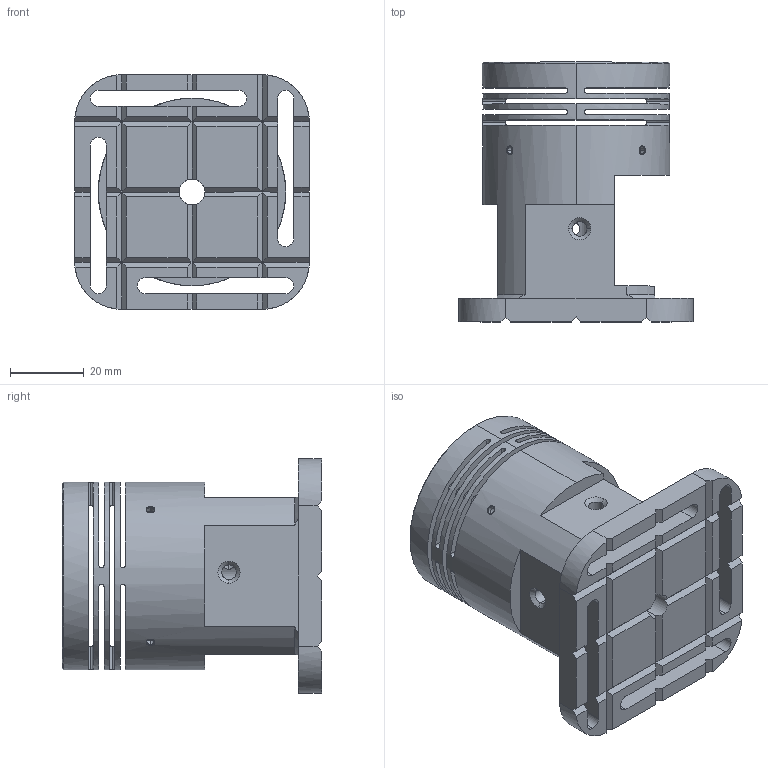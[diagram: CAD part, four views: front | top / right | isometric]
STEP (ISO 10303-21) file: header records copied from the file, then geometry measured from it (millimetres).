
FILE_DESCRIPTION (( 'STEP AP203' ), '1' );
FILE_NAME ('D2300001-v2 High-Reliability Ultra-Fast Mechanical Shutter (HRUF) Base.STEP', '2024-02-23T23:54:28', ( '' ), ( '' ), 'SwSTEP 2.0', 'SolidWorks 2023', '' );
FILE_SCHEMA (( 'CONFIG_CONTROL_DESIGN' ));
Length unit declared in the file: inch
Products named in the file (1): D2300001-v2 High-Reliability Ultra-Fast Mechanical Shutter (HRUF) Base
Bounding box: 63.5 x 70.32 x 63.5 mm (x, y, z)
Volume: 87110.9 mm3; surface area: 32490.1 mm2
Topology: 1 solids, 1 shells, 305 faces, 858 edges, 533 vertices
Faces by surface type: cylinder 128, plane 126, cone 42, bspline 8, sphere 1
Entity records: 15054 total; most frequent: CARTESIAN_POINT 7194, ORIENTED_EDGE 1688, DIRECTION 1523, EDGE_CURVE 844, AXIS2_PLACEMENT_3D 535, VERTEX_POINT 532, LINE 453, VECTOR 453
